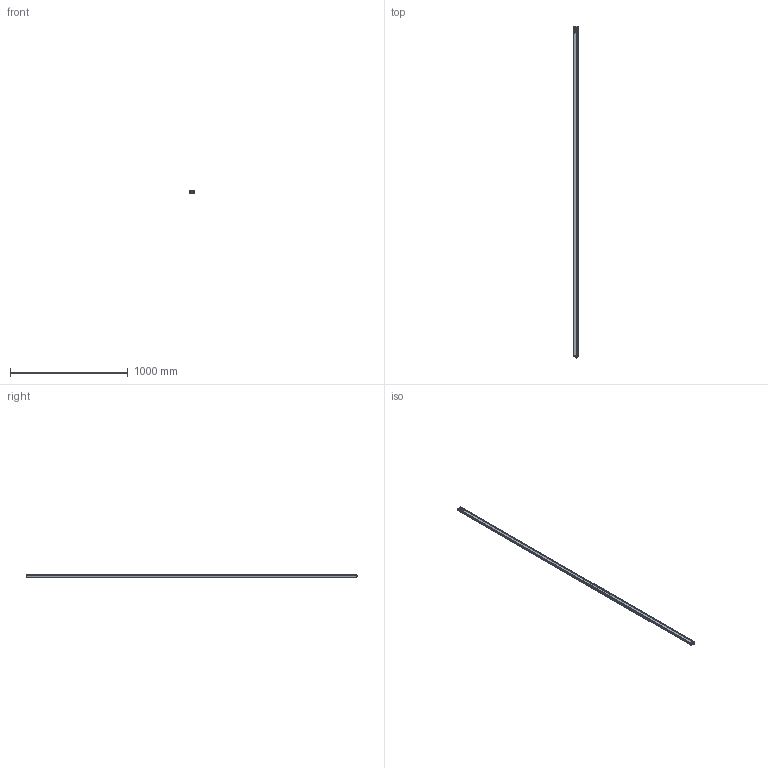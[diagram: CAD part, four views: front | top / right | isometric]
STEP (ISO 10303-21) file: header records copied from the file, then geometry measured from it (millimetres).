
FILE_DESCRIPTION(/* description */ (''),/* implementation_level */ '2;1');
FILE_NAME(/* name */ 'C:\Users\andre\SynologyDrive\Optoscan\Libreria Componenti\00 - Barriere\Polaris sorgente\Barriera Polaris RX\Polaris_2800_RX.stp',/* time_stamp */ '2021-06-04T12:13:00+02:00',/* author */ ('andre'),/* organization */ (''),/* preprocessor_version */ 'ST-DEVELOPER v18',/* originating_system */ 'Autodesk Inventor 2020',/* authorisation */ '');
FILE_SCHEMA (('AUTOMOTIVE_DESIGN { 1 0 10303 214 3 1 1 }'));
Length unit declared in the file: millimetre
Products named in the file (1): Polaris_2800_RX
Bounding box: 40.5 x 2817.3 x 20.75 mm (x, y, z)
Volume: 552910.1 mm3; surface area: 736227.3 mm2
Topology: 1 solids, 1 shells, 684 faces, 1882 edges, 1205 vertices
Faces by surface type: plane 315, cylinder 195, bspline 94, torus 62, sphere 10, cone 8
Full cylindrical faces by diameter (mm): 1 x8, 2.5 x4, 3 x4, 3.5 x4, 5.5 x4, 8 x1, 10.5 x2, 11.75 x9, 15.7 x1, 17.5 x1
Entity records: 27899 total; most frequent: CARTESIAN_POINT 10154, ORIENTED_EDGE 3738, DIRECTION 3331, EDGE_CURVE 1869, VERTEX_POINT 1205, AXIS2_PLACEMENT_3D 1155, LINE 1021, VECTOR 1021
